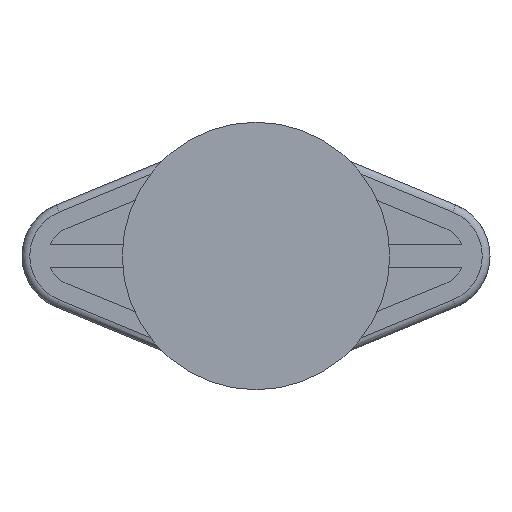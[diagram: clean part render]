
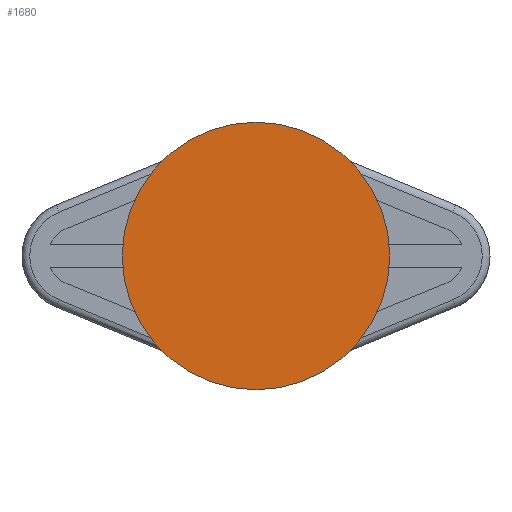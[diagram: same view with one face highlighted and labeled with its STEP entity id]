
A CAD part, front view. The second image highlights one B-rep face of the part: STEP entity #1680.
In plain terms, the highlighted planar face has unit normal (0, -1, 0).
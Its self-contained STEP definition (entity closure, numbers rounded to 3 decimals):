
#114=PLANE('',#1891);
#414=FACE_OUTER_BOUND('',#523,.T.);
#523=EDGE_LOOP('',(#1518));
#608=CIRCLE('',#1890,26.);
#783=VERTEX_POINT('',#4040);
#1027=EDGE_CURVE('',#783,#783,#608,.T.);
#1518=ORIENTED_EDGE('',*,*,#1027,.T.);
#1680=ADVANCED_FACE('',(#414),#114,.T.);
#1890=AXIS2_PLACEMENT_3D('',#4041,#2350,#2351);
#1891=AXIS2_PLACEMENT_3D('',#4043,#2353,#2354);
#2350=DIRECTION('center_axis',(0.,-1.,0.));
#2351=DIRECTION('ref_axis',(1.,0.,0.));
#2353=DIRECTION('center_axis',(0.,-1.,0.));
#2354=DIRECTION('ref_axis',(0.,0.,-1.));
#4040=CARTESIAN_POINT('',(-26.,-39.,0.));
#4041=CARTESIAN_POINT('Origin',(0.,-39.,0.));
#4043=CARTESIAN_POINT('Origin',(0.,-39.,0.));
